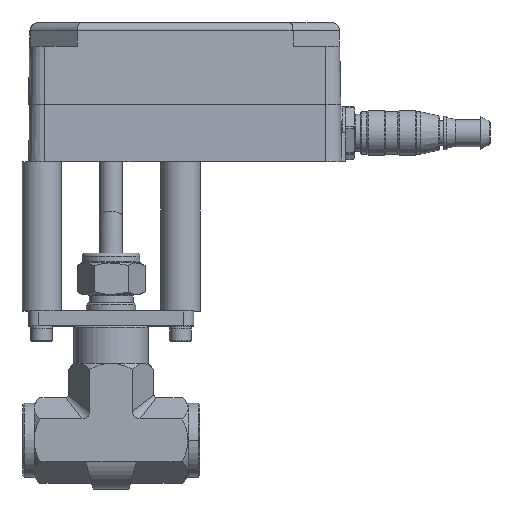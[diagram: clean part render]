
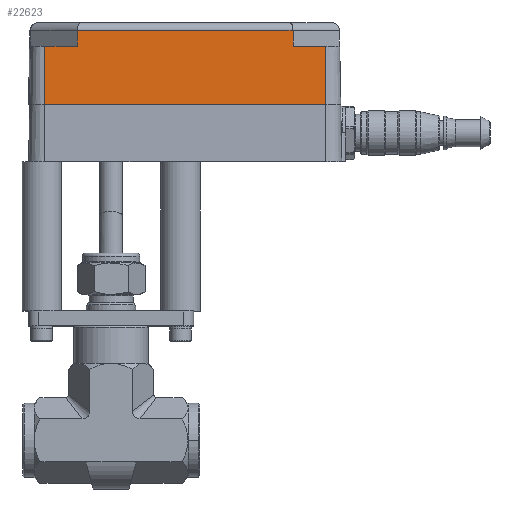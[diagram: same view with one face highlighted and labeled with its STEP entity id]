
A CAD part, top view. The second image highlights one B-rep face of the part: STEP entity #22623.
In plain terms, the highlighted planar face has unit normal (0.005, 0.018, 1) as drawn and (0, 0.017, 1) by its records, which use the part's own axes.
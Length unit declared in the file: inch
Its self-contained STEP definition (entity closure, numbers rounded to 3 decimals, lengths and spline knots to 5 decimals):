
#131 = EDGE_CURVE ( 'NONE', #2496, #7521, #15578, .T. ) ;
#168 = VECTOR ( 'NONE', #26090, 39.37008 ) ;
#426 = ORIENTED_EDGE ( 'NONE', *, *, #131, .T. ) ;
#567 = ORIENTED_EDGE ( 'NONE', *, *, #20946, .T. ) ;
#643 = DIRECTION ( 'NONE',  ( 0., -1., 0.017 ) ) ;
#828 = ORIENTED_EDGE ( 'NONE', *, *, #29229, .F. ) ;
#1010 = ORIENTED_EDGE ( 'NONE', *, *, #11835, .T. ) ;
#1014 = VERTEX_POINT ( 'NONE', #7752 ) ;
#2056 = ORIENTED_EDGE ( 'NONE', *, *, #4533, .F. ) ;
#2380 = ORIENTED_EDGE ( 'NONE', *, *, #20002, .T. ) ;
#2444 = VERTEX_POINT ( 'NONE', #5502 ) ;
#2496 = VERTEX_POINT ( 'NONE', #14907 ) ;
#2756 = CARTESIAN_POINT ( 'NONE',  ( -1.78626, 0.74, 1.37907 ) ) ;
#2875 = PLANE ( 'NONE',  #9506 ) ;
#3819 = CARTESIAN_POINT ( 'NONE',  ( -1.78626, 0., 1.39199 ) ) ;
#4531 = LINE ( 'NONE', #13854, #18463 ) ;
#4533 = EDGE_CURVE ( 'NONE', #15377, #15352, #5288, .T. ) ;
#4924 = DIRECTION ( 'NONE',  ( 0., -1., 0.017 ) ) ;
#5043 = LINE ( 'NONE', #14388, #21178 ) ;
#5248 = CARTESIAN_POINT ( 'NONE',  ( 1.78626, 1.04, 1.37383 ) ) ;
#5288 = LINE ( 'NONE', #5248, #25055 ) ;
#5502 = CARTESIAN_POINT ( 'NONE',  ( 1.37104, 0.94175, 1.37555 ) ) ;
#7232 = LINE ( 'NONE', #16657, #168 ) ;
#7521 = VERTEX_POINT ( 'NONE', #19716 ) ;
#7752 = CARTESIAN_POINT ( 'NONE',  ( -1.78626, 0.74, 1.37907 ) ) ;
#7765 = LINE ( 'NONE', #17205, #20715 ) ;
#9408 = VECTOR ( 'NONE', #14006, 39.37008 ) ;
#9506 = AXIS2_PLACEMENT_3D ( 'NONE', #12167, #21676, #643 ) ;
#9770 = CARTESIAN_POINT ( 'NONE',  ( -1.78626, 0., 1.39199 ) ) ;
#11835 = EDGE_CURVE ( 'NONE', #19171, #15352, #24911, .T. ) ;
#12049 = DIRECTION ( 'NONE',  ( -1., 0., 0. ) ) ;
#12167 = CARTESIAN_POINT ( 'NONE',  ( -1.78626, 1.04, 1.37383 ) ) ;
#13139 = DIRECTION ( 'NONE',  ( 1., 0., 0. ) ) ;
#13854 = CARTESIAN_POINT ( 'NONE',  ( -1.78626, 0.94175, 1.37555 ) ) ;
#14006 = DIRECTION ( 'NONE',  ( -0.007, -1., 0.017 ) ) ;
#14158 = EDGE_CURVE ( 'NONE', #2444, #2496, #4531, .T. ) ;
#14388 = CARTESIAN_POINT ( 'NONE',  ( -1.78626, 0., 1.39199 ) ) ;
#14714 = CARTESIAN_POINT ( 'NONE',  ( -1.37036, 1.03699, 1.37389 ) ) ;
#14813 = VECTOR ( 'NONE', #12049, 39.37008 ) ;
#14907 = CARTESIAN_POINT ( 'NONE',  ( -1.37104, 0.94175, 1.37555 ) ) ;
#15352 = VERTEX_POINT ( 'NONE', #19445 ) ;
#15377 = VERTEX_POINT ( 'NONE', #28852 ) ;
#15578 = LINE ( 'NONE', #14714, #9408 ) ;
#16657 = CARTESIAN_POINT ( 'NONE',  ( -1.78626, 0.74, 1.37907 ) ) ;
#17205 = CARTESIAN_POINT ( 'NONE',  ( 1.37017, 1.06281, 1.37344 ) ) ;
#18463 = VECTOR ( 'NONE', #23308, 39.37008 ) ;
#19171 = VERTEX_POINT ( 'NONE', #9770 ) ;
#19445 = CARTESIAN_POINT ( 'NONE',  ( 1.78626, 0., 1.39199 ) ) ;
#19716 = CARTESIAN_POINT ( 'NONE',  ( -1.3725, 0.74, 1.37907 ) ) ;
#20002 = EDGE_CURVE ( 'NONE', #15377, #24028, #7232, .T. ) ;
#20464 = CARTESIAN_POINT ( 'NONE',  ( 1.3725, 0.74, 1.37907 ) ) ;
#20715 = VECTOR ( 'NONE', #26640, 39.37008 ) ;
#20796 = VECTOR ( 'NONE', #13139, 39.37008 ) ;
#20946 = EDGE_CURVE ( 'NONE', #7521, #1014, #23833, .T. ) ;
#21178 = VECTOR ( 'NONE', #23818, 39.37008 ) ;
#21676 = DIRECTION ( 'NONE',  ( 0., 0.017, 1. ) ) ;
#22623 = ADVANCED_FACE ( 'NONE', ( #23960 ), #2875, .T. ) ;
#23308 = DIRECTION ( 'NONE',  ( -1., 0., 0. ) ) ;
#23818 = DIRECTION ( 'NONE',  ( 0., 1., -0.017 ) ) ;
#23833 = LINE ( 'NONE', #2756, #14813 ) ;
#23960 = FACE_OUTER_BOUND ( 'NONE', #26382, .T. ) ;
#24028 = VERTEX_POINT ( 'NONE', #20464 ) ;
#24911 = LINE ( 'NONE', #3819, #20796 ) ;
#25055 = VECTOR ( 'NONE', #4924, 39.37008 ) ;
#26090 = DIRECTION ( 'NONE',  ( -1., 0., 0. ) ) ;
#26382 = EDGE_LOOP ( 'NONE', ( #29962, #30165, #426, #567, #828, #1010, #2056, #2380 ) ) ;
#26640 = DIRECTION ( 'NONE',  ( -0.007, 1., -0.017 ) ) ;
#27986 = EDGE_CURVE ( 'NONE', #24028, #2444, #7765, .T. ) ;
#28852 = CARTESIAN_POINT ( 'NONE',  ( 1.78626, 0.74, 1.37907 ) ) ;
#29229 = EDGE_CURVE ( 'NONE', #19171, #1014, #5043, .T. ) ;
#29962 = ORIENTED_EDGE ( 'NONE', *, *, #27986, .T. ) ;
#30165 = ORIENTED_EDGE ( 'NONE', *, *, #14158, .T. ) ;
